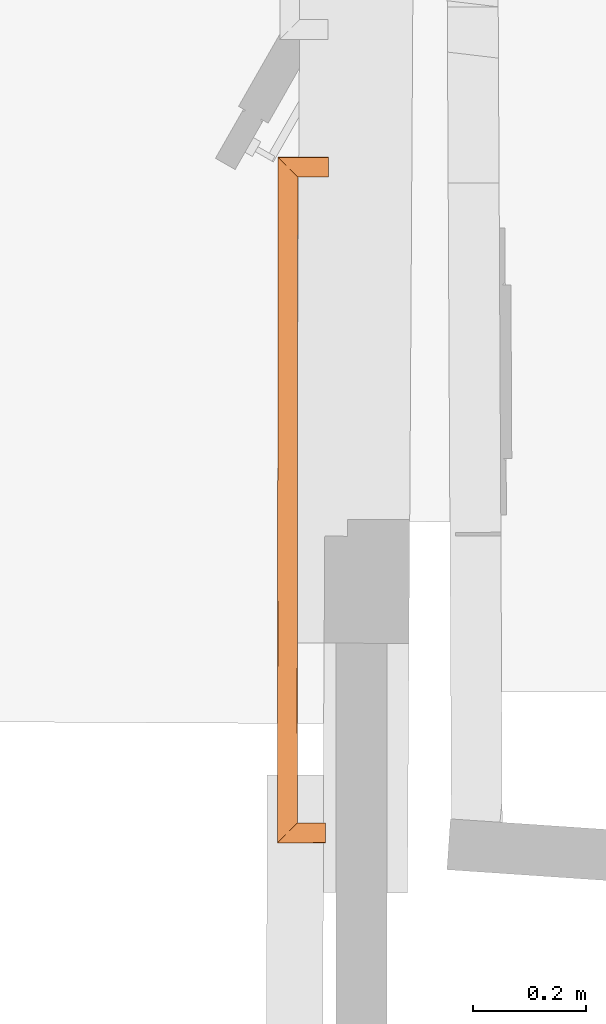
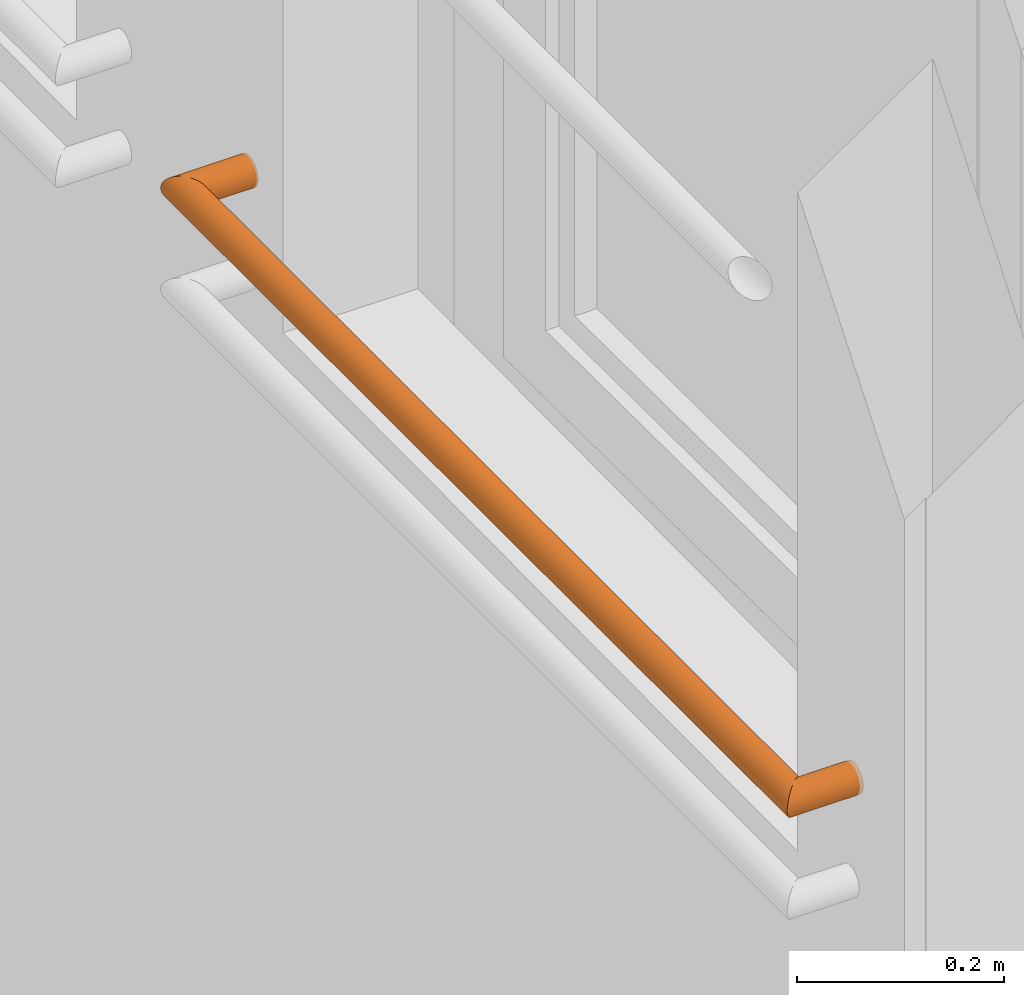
# One storey, part 89 of 97: 1 proxy.
"""IFC2X3 building model written with IfcOpenShell, lengths in centimetres."""

from ifc_helpers import new_model, entity, si_unit, converted_unit, direction, origin, origin_with_axes, place, context, subcontext, project, spatial, faceted_brep, material, type_object, element, save


model = new_model("IFC2X3")

# Units and contexts
model_context = context("Model", 3, precision=0.0001, world=origin(), true_north=direction((0.225632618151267, 0.974212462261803, 0.0)))
body_context = subcontext(model_context, "Body", "Model", "MODEL_VIEW")
ifc_project = project(units=[si_unit("LENGTHUNIT", "METRE", prefix="CENTI"), si_unit("AREAUNIT", "SQUARE_METRE", prefix="CENTI"), si_unit("VOLUMEUNIT", "CUBIC_METRE", prefix="CENTI"), converted_unit("PLANEANGLEUNIT", "DEGREE", entity("IfcRatioMeasure", 0.0174532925), si_unit("PLANEANGLEUNIT", "RADIAN"), dimensions=[0, 0, 0, 0, 0, 0, 0])], contexts=[model_context])

# Site, building, storey
site_placement = place(None, origin_with_axes())
site = spatial("IfcSite", under=ifc_project, at=site_placement, Name="Default Site", CompositionType="ELEMENT")
building_placement = place(site_placement, origin_with_axes())
building = spatial("IfcBuilding", under=site, at=building_placement, Name="Default Building", CompositionType="ELEMENT")
storey_placement = place(building_placement, origin_with_axes())
storey = spatial("IfcBuildingStorey", under=building, at=storey_placement, Name="Rez-de-chaussée", CompositionType="ELEMENT", Elevation=0.0)

# Proxy
ifc_material = material(Name="Aluminium mat")
building_element_proxy_type = type_object("IfcBuildingElementProxyType", Name="Profil [C] Ø35mm", PredefinedType="NOTDEFINED", material=ifc_material)
proxy_placement = place(storey_placement, origin_with_axes())
element("IfcBuildingElementProxy", 1, at=proxy_placement, inside=storey, type_object=building_element_proxy_type, material=ifc_material, Name="Extrusion (solide) 1702450", context=body_context, shape_type="Brep", body=[
    faceted_brep([(-1369.92635726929, -196.925926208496, 311.999988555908), (-1369.89974975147, -196.899360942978, 311.696100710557), (-1361.42625808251, -196.906203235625, 311.696100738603), (-1361.42625808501, -196.932790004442, 311.999988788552), (-1369.89974975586, -196.899366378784, 311.696100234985), (-1369.8206901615, -196.820481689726, 311.401460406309), (-1361.42616272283, -196.827260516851, 311.401461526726), (-1361.42625808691, -196.906208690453, 311.696100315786), (-1369.82069015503, -196.820473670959, 311.401462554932), (-1369.69175338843, -196.691657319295, 311.124991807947), (-1361.42606735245, -196.698332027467, 311.12499227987), (-1361.42616271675, -196.82725299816, 311.401464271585), (-1369.69175338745, -196.691656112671, 311.124992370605), (-1369.51656340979, -196.516828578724, 310.875110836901), (-1361.42597197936, -196.523361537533, 310.875110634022), (-1361.42606735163, -196.698331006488, 311.124992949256), (-1369.51656341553, -196.516835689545, 310.875105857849), (-1369.30074692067, -196.301308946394, 310.659404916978), (-1361.42578125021, -196.307671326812, 310.659408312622), (-1361.42597198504, -196.523368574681, 310.87510564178), (-1369.30074691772, -196.301305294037, 310.659408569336), (-1369.05069350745, -196.051627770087, 310.484441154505), (-1361.42559050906, -196.057788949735, 310.484443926), (-1361.4257812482, -196.307668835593, 310.659411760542), (-1369.05069351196, -196.051633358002, 310.484433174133), (-1368.77393722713, -195.775391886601, 310.355515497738), (-1361.42539978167, -195.781328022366, 310.355516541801), (-1361.42559051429, -196.057795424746, 310.484435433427), (-1368.77393722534, -195.775389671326, 310.355520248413), (-1368.47906112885, -195.480981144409, 310.276569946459), (-1361.42511368, -195.486679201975, 310.276570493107), (-1361.42539978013, -195.781326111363, 310.355520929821), (-1368.47906112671, -195.480978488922, 310.276579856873), (-1368.1749343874, -195.177340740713, 310.249993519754), (-1361.42482757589, -195.182788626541, 310.249993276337), (-1361.42511367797, -195.486676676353, 310.27658004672), (-1368.17493438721, -195.177340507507, 310.249996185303), (-1367.87080764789, -194.873702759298, 310.276582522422), (-1361.42463684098, -194.878912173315, 310.276582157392), (-1361.4248275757, -195.182788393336, 310.249996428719), (-1367.87080764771, -194.873702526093, 310.276579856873), (-1367.57593155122, -194.579293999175, 310.355530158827), (-1361.42435074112, -194.584253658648, 310.355532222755), (-1361.42463684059, -194.878911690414, 310.276578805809), (-1367.57593154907, -194.579291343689, 310.355520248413), (-1367.29927063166, -194.303049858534, 310.484437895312), (-1361.42416000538, -194.307794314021, 310.48443773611), (-1361.42435073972, -194.584251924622, 310.355523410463), (-1367.29927062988, -194.303047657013, 310.484433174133), (-1367.0491218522, -194.053370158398, 310.659400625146), (-1361.42396926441, -194.057912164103, 310.659400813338), (-1361.42416000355, -194.307792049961, 310.484432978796), (-1367.04912185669, -194.053375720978, 310.659408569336), (-1366.83330536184, -193.837848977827, 310.875109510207), (-1361.42377853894, -193.842214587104, 310.875112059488), (-1361.42396926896, -194.057917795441, 310.659408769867), (-1366.83330535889, -193.83784532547, 310.875105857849), (-1366.65821074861, -193.663017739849, 311.124987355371), (-1361.42368316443, -193.667242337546, 311.124990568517), (-1361.4237785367, -193.842211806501, 310.875108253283), (-1366.65821075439, -193.663024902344, 311.124992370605), (-1366.52917862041, -193.534208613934, 311.401463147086), (-1361.42358779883, -193.538331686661, 311.401462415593), (-1361.42368317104, -193.667250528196, 311.124994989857), (-1366.52917861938, -193.534207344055, 311.401462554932), (-1366.45011902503, -193.455322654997, 311.696102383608), (-1361.42349243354, -193.459382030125, 311.696100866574), (-1361.42358779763, -193.538330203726, 311.401462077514), (-1366.45011901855, -193.45531463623, 311.696100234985), (-1366.42351150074, -193.428749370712, 311.999988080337), (-1361.42349242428, -193.432786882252, 311.999987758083), (-1361.42349242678, -193.459373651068, 311.696099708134), (-1366.42351150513, -193.428754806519, 311.999988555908), (-1366.45011902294, -193.455320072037, 312.303876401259), (-1361.42349243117, -193.459379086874, 312.303876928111), (-1361.42349242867, -193.432792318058, 311.999988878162), (-1366.45011901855, -193.45531463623, 312.303876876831), (-1366.52917861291, -193.534199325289, 312.598516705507), (-1361.42358779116, -193.53832218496, 312.598517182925), (-1361.42349242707, -193.459374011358, 312.303878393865), (-1366.52917861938, -193.534207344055, 312.598514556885), (-1366.65821075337, -193.663023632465, 312.874985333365), (-1361.42368317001, -193.667249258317, 312.874982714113), (-1361.42358779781, -193.538330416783, 312.598515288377), (-1366.65821075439, -193.663024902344, 312.874984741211), (-1366.83330536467, -193.837852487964, 313.124866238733), (-1361.42377854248, -193.842218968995, 313.124863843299), (-1361.42368317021, -193.66724950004, 312.874981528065), (-1366.83330535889, -193.83784532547, 313.124871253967), (-1367.04912185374, -194.053372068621, 313.340572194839), (-1361.42396926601, -194.057914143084, 313.340571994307), (-1361.42377853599, -193.842210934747, 313.124868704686), (-1367.04912185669, -194.053375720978, 313.34056854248), (-1367.29927063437, -194.303053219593, 313.515535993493), (-1361.42416000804, -194.30779761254, 313.51553618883), (-1361.42396926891, -194.057917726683, 313.340568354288), (-1367.29927062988, -194.303047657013, 313.515543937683), (-1367.57593154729, -194.579289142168, 313.644461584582), (-1361.42435073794, -194.584249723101, 313.644458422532), (-1361.4241600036, -194.3077921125, 313.515544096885), (-1367.57593154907, -194.579291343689, 313.644456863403), (-1367.87080764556, -194.873699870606, 313.723407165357), (-1361.42463683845, -194.878909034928, 313.723408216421), (-1361.42435073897, -194.584251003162, 313.644454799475), (-1367.87080764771, -194.873702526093, 313.723397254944), (-1368.17493438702, -195.177340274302, 313.749983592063), (-1361.42482757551, -195.182788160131, 313.749983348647), (-1361.42463684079, -194.87891194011, 313.723397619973), (-1368.17493438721, -195.177340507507, 313.749980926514), (-1368.47906112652, -195.480978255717, 313.723394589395), (-1361.42511367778, -195.486676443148, 313.723394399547), (-1361.4248275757, -195.182788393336, 313.74998116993), (-1368.47906112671, -195.480978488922, 313.723397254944), (-1368.7739372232, -195.775387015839, 313.64444695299), (-1361.42539977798, -195.781323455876, 313.644446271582), (-1361.42511367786, -195.486676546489, 313.723396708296), (-1368.77393722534, -195.775389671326, 313.644456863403), (-1369.05069351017, -196.051631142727, 313.515539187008), (-1361.4255905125, -196.057793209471, 313.515536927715), (-1361.42539977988, -195.781325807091, 313.644455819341), (-1369.05069351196, -196.051633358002, 313.515543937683), (-1369.30074692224, -196.301310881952, 313.340576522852), (-1361.42578125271, -196.307674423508, 313.340573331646), (-1361.42559051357, -196.05779453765, 313.515541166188), (-1369.30074691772, -196.301305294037, 313.34056854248), (-1369.51656341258, -196.516832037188, 313.124867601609), (-1361.42597198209, -196.523364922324, 313.124867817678), (-1361.42578124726, -196.307667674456, 313.340565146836), (-1369.51656341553, -196.516835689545, 313.124871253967), (-1369.69175339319, -196.691663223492, 312.874989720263), (-1361.42606735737, -196.698338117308, 312.874989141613), (-1361.4259719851, -196.523368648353, 313.124871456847), (-1369.69175338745, -196.691656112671, 312.874984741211), (-1369.82069015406, -196.820472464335, 312.598513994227), (-1361.42616271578, -196.827251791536, 312.598512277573), (-1361.42606735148, -196.698330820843, 312.874984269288), (-1369.82069015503, -196.820473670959, 312.598514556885), (-1369.89974974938, -196.899358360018, 312.303874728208), (-1361.42625808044, -196.906200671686, 312.303874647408), (-1361.42616271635, -196.827252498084, 312.598513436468), (-1369.89974975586, -196.899366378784, 312.303876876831), (-1369.92635727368, -196.925931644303, 311.99998903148), (-1361.4262580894, -196.932795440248, 311.999988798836), (-1361.4262580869, -196.906208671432, 312.303876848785), (-1369.82851028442, -75.7314324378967, 311.999988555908), (-1369.80194463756, -75.7580160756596, 311.696096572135), (-1369.89976569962, -196.89936636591, 311.696098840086), (-1369.92637393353, -196.92592619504, 311.999987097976), (-1369.801902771, -75.7580161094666, 311.696100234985), (-1369.72301959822, -75.8369684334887, 311.40146638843), (-1369.82071051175, -196.820473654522, 311.401457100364), (-1369.89972538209, -196.899366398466, 311.69610676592), (-1369.72303390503, -75.836968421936, 311.401462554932), (-1369.59421328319, -75.9658872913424, 311.124982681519), (-1369.69171206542, -196.691656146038, 311.125011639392), (-1369.82072066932, -196.820473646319, 311.401448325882), (-1369.59419250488, -75.9658873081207, 311.124992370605), (-1369.41936877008, -76.1408507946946, 310.875116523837), (-1369.51656390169, -196.516835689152, 310.875105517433), (-1369.69170266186, -196.691656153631, 311.125027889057), (-1369.41938400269, -76.1408507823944, 310.875105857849), (-1369.20385721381, -76.3565540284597, 310.659404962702), (-1369.3007311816, -196.301305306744, 310.65942430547), (-1369.51657513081, -196.516835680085, 310.87509414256), (-1369.20385360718, -76.3565540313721, 310.659408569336), (-1368.95417603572, -76.60642862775, 310.484441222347), (-1369.05066793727, -196.051633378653, 310.484469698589), (-1369.3007341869, -196.301305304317, 310.659426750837), (-1368.95418167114, -76.6064286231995, 310.484433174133), (-1368.67798911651, -76.8828928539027, 310.355538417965), (-1368.7739404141, -195.775389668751, 310.355513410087), (-1369.05068268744, -196.051633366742, 310.484456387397), (-1368.67799758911, -76.8828928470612, 310.355520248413), (-1368.38351119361, -77.1775484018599, 310.276549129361), (-1368.47906742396, -195.480978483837, 310.276556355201), (-1368.77394159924, -195.775389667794, 310.355503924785), (-1368.38350296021, -77.1775484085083, 310.276579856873), (-1368.07994802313, -77.4814307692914, 310.250000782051), (-1368.17493438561, -195.177340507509, 310.24999620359), (-1368.47906090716, -195.480978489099, 310.276582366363), (-1368.07994842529, -77.4814307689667, 310.249996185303), (-1367.77629884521, -77.7853131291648, 310.276583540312), (-1367.87080826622, -194.873702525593, 310.276586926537), (-1368.17493478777, -195.177340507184, 310.250000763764), (-1367.77629852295, -77.785313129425, 310.276579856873), (-1367.48181212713, -78.0799627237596, 310.355550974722), (-1367.57593608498, -194.579291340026, 310.355537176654), (-1367.87081026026, -194.873702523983, 310.276589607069), (-1367.48180389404, -78.0799627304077, 310.355520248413), (-1367.20561134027, -78.3564329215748, 310.484415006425), (-1367.29925775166, -194.303047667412, 310.484405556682), (-1367.57592169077, -194.579291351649, 310.355499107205), (-1367.20561981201, -78.3564329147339, 310.484433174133), (-1366.95594224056, -78.6063075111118, 310.659400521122), (-1367.04913227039, -194.053375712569, 310.659423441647), (-1367.29926251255, -194.303047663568, 310.484421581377), (-1366.95594787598, -78.6063075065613, 310.659408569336), (-1366.7404210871, -78.8220107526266, 310.875109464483), (-1366.83330230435, -193.837845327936, 310.87510280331), (-1367.04914625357, -194.053375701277, 310.65943296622), (-1366.74041748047, -78.8220107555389, 310.875105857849), (-1366.56559374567, -78.9969742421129, 311.124981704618), (-1366.65818903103, -193.663024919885, 311.124977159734), (-1366.83329641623, -193.837845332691, 310.875099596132), (-1366.56560897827, -78.9969742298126, 311.124992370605), (-1366.43678835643, -79.125893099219, 311.401472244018), (-1366.52917716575, -193.534207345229, 311.401461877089), (-1366.65820280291, -193.663024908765, 311.124988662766), (-1366.43676757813, -79.1258931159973, 311.401462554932), (-1366.35788440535, -79.2048454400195, 311.696096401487), (-1366.45013849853, -193.455314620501, 311.69610545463), (-1366.52915336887, -193.534207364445, 311.401455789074), (-1366.35789871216, -79.2048454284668, 311.696100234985), (-1366.33133306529, -79.2314290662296, 311.999992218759), (-1366.42354672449, -193.428754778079, 311.999991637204), (-1366.45015495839, -193.455314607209, 311.696103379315), (-1366.33129119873, -79.2314291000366, 311.999988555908), (-1366.3578568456, -79.2048454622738, 312.303880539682), (-1366.45011309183, -193.455314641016, 312.303877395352), (-1366.42350485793, -193.428754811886, 311.999989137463), (-1366.35789871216, -79.2048454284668, 312.303876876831), (-1366.43678188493, -79.1258931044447, 312.598510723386), (-1366.52916767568, -193.534207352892, 312.598517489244), (-1366.45015280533, -193.455314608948, 312.303867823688), (-1366.43676757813, -79.1258931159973, 312.598514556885), (-1366.56558819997, -78.996974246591, 312.874994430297), (-1366.6581820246, -193.663024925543, 312.874998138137), (-1366.52915638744, -193.534207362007, 312.598524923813), (-1366.56560897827, -78.9969742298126, 312.874984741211), (-1366.74043271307, -78.8220107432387, 313.12486058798), (-1366.83331164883, -193.837845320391, 313.124866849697), (-1366.65820426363, -193.663024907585, 312.874989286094), (-1366.74041748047, -78.8220107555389, 313.124871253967), (-1366.95594426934, -78.6063075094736, 313.340572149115), (-1367.04914264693, -194.05337570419, 313.340547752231), (-1366.83329869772, -193.837845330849, 313.12487791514), (-1366.95594787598, -78.6063075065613, 313.34056854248), (-1367.20562544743, -78.3564329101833, 313.51553588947), (-1367.29926814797, -194.303047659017, 313.515547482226), (-1367.04913790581, -194.053375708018, 313.340545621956), (-1367.20561981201, -78.3564329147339, 313.515543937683), (-1367.48181236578, -78.0799627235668, 313.644438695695), (-1367.57593016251, -194.579291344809, 313.644459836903), (-1367.2992662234, -194.303047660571, 313.515553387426), (-1367.48180389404, -78.0799627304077, 313.644456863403), (-1367.77629028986, -77.7853131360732, 313.723427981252), (-1367.87080202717, -194.873702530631, 313.723418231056), (-1367.57592785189, -194.579291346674, 313.644470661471), (-1367.77629852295, -77.785313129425, 313.723397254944), (-1368.07994810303, -77.4814307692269, 313.749984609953), (-1368.17493446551, -195.177340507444, 313.749980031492), (-1367.87080794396, -194.873702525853, 313.723393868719), (-1368.07994842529, -77.4814307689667, 313.749980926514), (-1368.38350336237, -77.1775484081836, 313.723401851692), (-1368.47906130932, -195.480978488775, 313.723399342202), (-1368.17493478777, -195.177340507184, 313.749985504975), (-1368.38350296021, -77.1775484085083, 313.723397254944), (-1368.6779893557, -76.8828928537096, 313.644426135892), (-1368.77393336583, -195.775389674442, 313.64444245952), (-1368.47905919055, -195.480978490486, 313.723390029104), (-1368.67799758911, -76.8828928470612, 313.644456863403), (-1368.95419014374, -76.6064286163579, 313.515562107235), (-1369.05069116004, -196.051633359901, 313.515538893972), (-1368.7739488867, -195.775389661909, 313.644481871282), (-1368.95418167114, -76.6064286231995, 313.515543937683), (-1369.2038592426, -76.3565540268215, 313.340576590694), (-1369.30073982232, -196.301305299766, 313.340558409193), (-1369.05067357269, -196.051633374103, 313.515515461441), (-1369.20385360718, -76.3565540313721, 313.34056854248), (-1369.41938039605, -76.1408507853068, 313.124867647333), (-1369.51657152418, -196.516835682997, 313.124879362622), (-1369.30072757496, -196.301305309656, 313.340549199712), (-1369.41938400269, -76.1408507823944, 313.124871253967), (-1369.59420773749, -75.9658872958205, 312.874995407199), (-1369.69171789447, -196.691656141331, 312.874959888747), (-1369.5165791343, -196.516835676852, 313.124882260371), (-1369.59419250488, -75.9658873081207, 312.874984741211), (-1369.72301312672, -75.8369684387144, 312.598504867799), (-1369.82069989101, -196.820473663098, 312.598519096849), (-1369.69169128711, -196.691656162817, 312.874955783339), (-1369.72303390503, -75.836968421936, 312.598514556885), (-1369.8019170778, -75.7580160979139, 312.30388071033), (-1369.89973968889, -196.899366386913, 312.303874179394), (-1369.82072481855, -196.820473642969, 312.598523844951), (-1369.801902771, -75.7580161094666, 312.303876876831), (-1369.82846841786, -75.7314324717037, 311.999984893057), (-1369.92633206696, -196.925926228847, 311.99998635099), (-1369.89972383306, -196.899366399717, 312.303874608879), (-1360.93854904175, -75.7314324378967, 311.999988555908), (-1360.93854904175, -75.7580191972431, 311.696100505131), (-1369.801902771, -75.7580191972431, 311.696100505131), (-1360.93854904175, -75.7580161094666, 311.696100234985), (-1360.93854904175, -75.8369643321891, 311.401461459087), (-1369.72303390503, -75.8369643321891, 311.401461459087), (-1369.801902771, -75.7580161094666, 311.696100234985), (-1360.93854904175, -75.836968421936, 311.401462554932), (-1360.93854904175, -75.9658883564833, 311.124992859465), (-1369.59419250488, -75.9658883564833, 311.124992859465), (-1369.72303390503, -75.8369684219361, 311.401462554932), (-1360.93854904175, -75.9658873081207, 311.124992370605), (-1360.93854904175, -76.1408567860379, 310.875110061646), (-1369.41938400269, -76.140856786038, 310.875110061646), (-1369.59419250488, -75.9658873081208, 311.124992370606), (-1360.93854904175, -76.1408507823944, 310.875105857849), (-1360.93854904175, -76.3565510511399, 310.659405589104), (-1369.20385360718, -76.3565510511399, 310.659405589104), (-1360.93854904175, -76.3565540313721, 310.659408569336), (-1360.93854904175, -76.6064339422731, 310.484440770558), (-1368.95418167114, -76.6064339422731, 310.484440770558), (-1360.93854904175, -76.6064286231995, 310.484433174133), (-1360.93854904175, -76.8828911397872, 310.355516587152), (-1368.67799758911, -76.8828911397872, 310.355516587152), (-1360.93854904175, -76.8828928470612, 310.355520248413), (-1360.93854904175, -77.1775453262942, 310.276568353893), (-1368.38350296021, -77.1775453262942, 310.276568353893), (-1360.93854904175, -77.1775484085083, 310.276579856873), (-1360.93854904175, -77.4814305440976, 310.249993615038), (-1368.07994842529, -77.4814305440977, 310.249993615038), (-1360.93854904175, -77.4814307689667, 310.249996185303), (-1360.93854904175, -77.785312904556, 310.276582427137), (-1367.77629852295, -77.785312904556, 310.276582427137), (-1360.93854904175, -77.785313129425, 310.276579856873), (-1360.93854904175, -78.079960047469, 310.355530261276), (-1367.48180389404, -78.079960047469, 310.355530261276), (-1360.93854904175, -78.0799627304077, 310.355520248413), (-1360.93854904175, -78.3564301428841, 310.484439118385), (-1367.20561981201, -78.3564301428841, 310.484439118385), (-1360.93854904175, -78.3564329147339, 310.484433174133), (-1360.93854904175, -78.6063128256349, 310.659400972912), (-1366.95594787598, -78.6063128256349, 310.659400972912), (-1360.93854904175, -78.6063075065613, 310.659408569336), (-1360.93854904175, -78.8220077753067, 310.875108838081), (-1366.74041748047, -78.8220077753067, 310.875108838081), (-1360.93854904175, -78.8220107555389, 310.875105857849), (-1360.93854904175, -78.9969802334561, 311.124988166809), (-1366.56560897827, -78.9969802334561, 311.124988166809), (-1360.93854904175, -78.9969742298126, 311.124992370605), (-1360.93854904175, -79.1258941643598, 311.401462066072), (-1366.43676757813, -79.1258941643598, 311.401462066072), (-1360.93854904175, -79.1258931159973, 311.401462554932), (-1360.93854904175, -79.2048413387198, 311.69610133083), (-1366.35789871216, -79.2048413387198, 311.69610133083), (-1360.93854904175, -79.2048454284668, 311.696100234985), (-1360.93854904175, -79.2314321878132, 311.999988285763), (-1366.33129119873, -79.2314321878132, 311.999988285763), (-1360.93854904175, -79.2314291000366, 311.999988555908), (-1360.93854904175, -79.2048423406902, 312.303876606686), (-1366.35789871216, -79.2048423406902, 312.303876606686), (-1360.93854904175, -79.2048454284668, 312.303876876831), (-1360.93854904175, -79.1258972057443, 312.598515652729), (-1366.43676757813, -79.1258972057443, 312.598515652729), (-1360.93854904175, -79.1258931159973, 312.598514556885), (-1360.93854904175, -78.99697318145, 312.874984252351), (-1366.56560897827, -78.9969731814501, 312.874984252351), (-1360.93854904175, -78.9969742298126, 312.874984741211), (-1360.93854904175, -78.8220047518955, 313.124867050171), (-1366.74041748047, -78.8220047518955, 313.124867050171), (-1360.93854904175, -78.8220107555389, 313.124871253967), (-1360.93854904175, -78.6063104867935, 313.340571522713), (-1366.95594787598, -78.6063104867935, 313.340571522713), (-1366.74041748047, -78.822010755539, 313.124871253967), (-1360.93854904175, -78.6063075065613, 313.34056854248), (-1360.93854904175, -78.3564275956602, 313.515536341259), (-1367.20561981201, -78.3564275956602, 313.515536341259), (-1366.95594787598, -78.6063075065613, 313.340568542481), (-1360.93854904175, -78.3564329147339, 313.515543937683), (-1360.93854904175, -78.0799655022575, 313.644462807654), (-1367.48180389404, -78.0799655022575, 313.644462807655), (-1360.93854904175, -78.0799627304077, 313.644456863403), (-1360.93854904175, -77.7853158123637, 313.723407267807), (-1367.77629852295, -77.7853158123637, 313.723407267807), (-1360.93854904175, -77.785313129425, 313.723397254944), (-1360.93854904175, -77.4814309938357, 313.749983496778), (-1368.07994842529, -77.4814309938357, 313.749983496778), (-1360.93854904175, -77.4814307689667, 313.749980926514), (-1360.93854904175, -77.1775486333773, 313.723394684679), (-1368.38350296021, -77.1775486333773, 313.723394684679), (-1360.93854904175, -77.1775484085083, 313.723397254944), (-1360.93854904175, -76.8828959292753, 313.644445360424), (-1368.67799758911, -76.8828959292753, 313.644445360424), (-1360.93854904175, -76.8828928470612, 313.644456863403), (-1360.93854904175, -76.6064303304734, 313.515540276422), (-1368.95418167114, -76.6064303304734, 313.515540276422), (-1368.67799758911, -76.8828928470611, 313.644456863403), (-1360.93854904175, -76.6064286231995, 313.515543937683), (-1360.93854904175, -76.3565487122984, 313.340576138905), (-1369.20385360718, -76.3565487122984, 313.340576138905), (-1368.95418167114, -76.6064286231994, 313.515543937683), (-1360.93854904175, -76.3565540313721, 313.34056854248), (-1360.93854904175, -76.1408537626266, 313.124868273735), (-1369.41938400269, -76.1408537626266, 313.124868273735), (-1369.20385360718, -76.356554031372, 313.340568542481), (-1360.93854904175, -76.1408507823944, 313.124871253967), (-1360.93854904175, -75.9658813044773, 312.874988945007), (-1369.59419250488, -75.9658813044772, 312.874988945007), (-1360.93854904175, -75.9658873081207, 312.874984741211), (-1360.93854904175, -75.8369673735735, 312.598515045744), (-1369.72303390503, -75.8369673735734, 312.598515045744), (-1360.93854904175, -75.836968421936, 312.598514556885), (-1360.93854904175, -75.7580201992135, 312.303875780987), (-1369.801902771, -75.7580201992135, 312.303875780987), (-1360.93854904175, -75.7580161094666, 312.303876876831), (-1360.93854904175, -75.7314293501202, 311.999988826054), (-1369.82851028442, -75.7314293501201, 311.999988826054), (-1361.42625808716, -196.932792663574, 311.999988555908), (-1361.42623662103, -196.906209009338, 311.696100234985), (-1361.42617286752, -196.827256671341, 311.401462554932), (-1361.42606876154, -196.698331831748, 311.124992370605), (-1361.42592747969, -196.52336839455, 310.875105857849), (-1361.4257533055, -196.307671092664, 310.659408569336), (-1361.42555153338, -196.057796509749, 310.484433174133), (-1361.4253282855, -195.781326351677, 310.355520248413), (-1361.42509035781, -195.486676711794, 310.276579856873), (-1361.42484496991, -195.182788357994, 310.249996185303), (-1361.4245995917, -194.878912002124, 310.276579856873), (-1361.42436165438, -194.58425044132, 310.355520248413), (-1361.42413841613, -194.307792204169, 310.484433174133), (-1361.42393664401, -194.057917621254, 310.659408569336), (-1361.4237624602, -193.842208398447, 310.875105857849), (-1361.42362117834, -193.667244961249, 311.124992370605), (-1361.42351708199, -193.538332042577, 311.401462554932), (-1361.42345332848, -193.45937970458, 311.696100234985), (-1361.42343186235, -193.432796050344, 311.999988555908), (-1361.42345332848, -193.45937970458, 312.303876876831), (-1361.42351708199, -193.538332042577, 312.598514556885), (-1361.42362117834, -193.667244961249, 312.874984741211), (-1361.42376246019, -193.842208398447, 313.124871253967), (-1361.42393664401, -194.057917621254, 313.34056854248), (-1361.42413841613, -194.307792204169, 313.515543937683), (-1361.42436165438, -194.58425044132, 313.644456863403), (-1361.4245995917, -194.878912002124, 313.723397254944), (-1361.42484496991, -195.182788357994, 313.749980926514), (-1361.4250903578, -195.486676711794, 313.723397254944), (-1361.4253282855, -195.781326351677, 313.644456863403), (-1361.42555153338, -196.057796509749, 313.515543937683), (-1361.4257533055, -196.307671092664, 313.34056854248), (-1361.42592747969, -196.52336839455, 313.124871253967), (-1361.42606876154, -196.698331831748, 312.874984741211), (-1361.42617286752, -196.827256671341, 312.598514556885), (-1361.42623662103, -196.906209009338, 312.303876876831)], [[[0, 1, 2, 3]], [[4, 5, 6, 7]], [[8, 9, 10, 11]], [[12, 13, 14, 15]], [[16, 17, 18, 19]], [[20, 21, 22, 23]], [[24, 25, 26, 27]], [[28, 29, 30, 31]], [[32, 33, 34, 35]], [[36, 37, 38, 39]], [[40, 41, 42, 43]], [[44, 45, 46, 47]], [[48, 49, 50, 51]], [[52, 53, 54, 55]], [[56, 57, 58, 59]], [[60, 61, 62, 63]], [[64, 65, 66, 67]], [[68, 69, 70, 71]], [[72, 73, 74, 75]], [[76, 77, 78, 79]], [[80, 81, 82, 83]], [[84, 85, 86, 87]], [[88, 89, 90, 91]], [[92, 93, 94, 95]], [[96, 97, 98, 99]], [[100, 101, 102, 103]], [[104, 105, 106, 107]], [[108, 109, 110, 111]], [[112, 113, 114, 115]], [[116, 117, 118, 119]], [[120, 121, 122, 123]], [[124, 125, 126, 127]], [[128, 129, 130, 131]], [[132, 133, 134, 135]], [[136, 137, 138, 139]], [[140, 141, 142, 143]], [[144, 145, 146, 147]], [[148, 149, 150, 151]], [[152, 153, 154, 155]], [[156, 157, 158, 159]], [[160, 161, 162, 163]], [[164, 165, 166, 167]], [[168, 169, 170, 171]], [[172, 173, 174, 175]], [[176, 177, 178, 179]], [[180, 181, 182, 183]], [[184, 185, 186, 187]], [[188, 189, 190, 191]], [[192, 193, 194, 195]], [[196, 197, 198, 199]], [[200, 201, 202, 203]], [[204, 205, 206, 207]], [[208, 209, 210, 211]], [[212, 213, 214, 215]], [[216, 217, 218, 219]], [[220, 221, 222, 223]], [[224, 225, 226, 227]], [[228, 229, 230, 231]], [[232, 233, 234, 235]], [[236, 237, 238, 239]], [[240, 241, 242, 243]], [[244, 245, 246, 247]], [[248, 249, 250, 251]], [[252, 253, 254, 255]], [[256, 257, 258, 259]], [[260, 261, 262, 263]], [[264, 265, 266, 267]], [[268, 269, 270, 271]], [[272, 273, 274, 275]], [[276, 277, 278, 279]], [[280, 281, 282, 283]], [[284, 285, 286, 287]], [[288, 289, 290, 144]], [[291, 292, 293, 294]], [[295, 296, 297, 298]], [[299, 300, 301, 302]], [[303, 304, 305, 160]], [[306, 307, 308, 164]], [[309, 310, 311, 168]], [[312, 313, 314, 172]], [[315, 316, 317, 176]], [[318, 319, 320, 180]], [[321, 322, 323, 184]], [[324, 325, 326, 188]], [[327, 328, 329, 192]], [[330, 331, 332, 196]], [[333, 334, 335, 200]], [[336, 337, 338, 204]], [[339, 340, 341, 208]], [[342, 343, 344, 212]], [[345, 346, 347, 216]], [[348, 349, 350, 220]], [[351, 352, 353, 224]], [[354, 355, 356, 228]], [[357, 358, 359, 360]], [[361, 362, 363, 364]], [[365, 366, 367, 240]], [[368, 369, 370, 244]], [[371, 372, 373, 248]], [[374, 375, 376, 252]], [[377, 378, 379, 256]], [[380, 381, 382, 383]], [[384, 385, 386, 387]], [[388, 389, 390, 391]], [[392, 393, 394, 272]], [[395, 396, 397, 276]], [[398, 399, 400, 280]], [[401, 402, 403, 284]], [[404, 405, 406, 407, 408, 409, 410, 411, 412, 413, 414, 415, 416, 417, 418, 419, 420, 421, 422, 423, 424, 425, 426, 427, 428, 429, 430, 431, 432, 433, 434, 435, 436, 437, 438, 439]], [[401, 398, 395, 392, 388, 384, 380, 377, 374, 371, 368, 365, 361, 357, 354, 351, 348, 345, 342, 339, 336, 333, 330, 327, 324, 321, 318, 315, 312, 309, 306, 303, 299, 295, 291, 288]]]),
])

save(model, "model.ifc")
